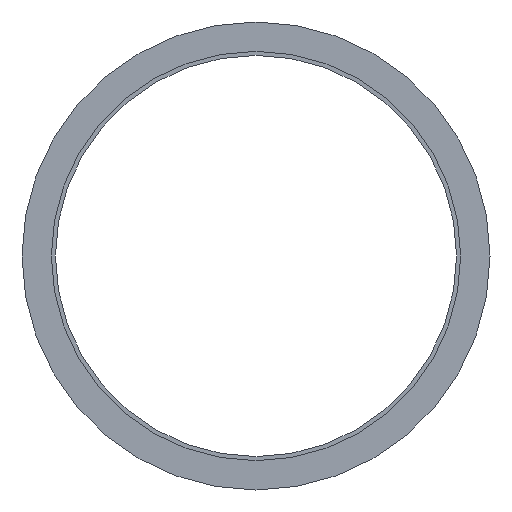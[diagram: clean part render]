
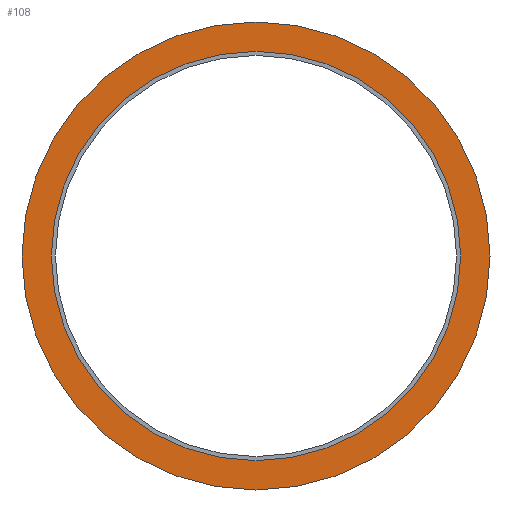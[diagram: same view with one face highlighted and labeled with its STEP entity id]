
A CAD part, left-side view. The second image highlights one B-rep face of the part: STEP entity #108.
In plain terms, the highlighted planar face has unit normal (-1, 0, 0).
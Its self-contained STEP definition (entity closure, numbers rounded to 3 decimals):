
#5 = EDGE_CURVE ( 'NONE', #173, #357, #10, .T. ) ;
#10 = CIRCLE ( 'NONE', #30, 15.305 ) ;
#24 = EDGE_CURVE ( 'NONE', #395, #235, #54, .T. ) ;
#30 = AXIS2_PLACEMENT_3D ( 'NONE', #349, #387, #263 ) ;
#53 = DIRECTION ( 'NONE',  ( -1., 0., 0. ) ) ;
#54 = CIRCLE ( 'NONE', #98, 17.5 ) ;
#60 = DIRECTION ( 'NONE',  ( -1., 0., 0. ) ) ;
#72 = CARTESIAN_POINT ( 'NONE',  ( -2.809, -0.153, 0. ) ) ;
#76 = AXIS2_PLACEMENT_3D ( 'NONE', #284, #53, #301 ) ;
#98 = AXIS2_PLACEMENT_3D ( 'NONE', #72, #60, #175 ) ;
#108 = ADVANCED_FACE ( 'NONE', ( #148, #315 ), #354, .F. ) ;
#113 = EDGE_CURVE ( 'NONE', #235, #395, #234, .T. ) ;
#148 = FACE_BOUND ( 'NONE', #297, .T. ) ;
#150 = CARTESIAN_POINT ( 'NONE',  ( -2.809, -0.153, -15.305 ) ) ;
#152 = ORIENTED_EDGE ( 'NONE', *, *, #5, .F. ) ;
#172 = CARTESIAN_POINT ( 'NONE',  ( -2.809, -0.153, -17.5 ) ) ;
#173 = VERTEX_POINT ( 'NONE', #150 ) ;
#175 = DIRECTION ( 'NONE',  ( 0., 0., 1. ) ) ;
#181 = CARTESIAN_POINT ( 'NONE',  ( -2.809, -0.153, 0. ) ) ;
#186 = ORIENTED_EDGE ( 'NONE', *, *, #201, .F. ) ;
#197 = AXIS2_PLACEMENT_3D ( 'NONE', #181, #405, #229 ) ;
#201 = EDGE_CURVE ( 'NONE', #357, #173, #222, .T. ) ;
#209 = CARTESIAN_POINT ( 'NONE',  ( -2.809, -0.153, 17.5 ) ) ;
#219 = CARTESIAN_POINT ( 'NONE',  ( -2.809, -0.153, 15.305 ) ) ;
#222 = CIRCLE ( 'NONE', #197, 15.305 ) ;
#229 = DIRECTION ( 'NONE',  ( 0., 0., 1. ) ) ;
#234 = CIRCLE ( 'NONE', #76, 17.5 ) ;
#235 = VERTEX_POINT ( 'NONE', #209 ) ;
#263 = DIRECTION ( 'NONE',  ( 0., 0., 1. ) ) ;
#284 = CARTESIAN_POINT ( 'NONE',  ( -2.809, -0.153, 0. ) ) ;
#287 = CARTESIAN_POINT ( 'NONE',  ( -2.809, -0.153, 0. ) ) ;
#296 = ORIENTED_EDGE ( 'NONE', *, *, #113, .T. ) ;
#297 = EDGE_LOOP ( 'NONE', ( #152, #186 ) ) ;
#301 = DIRECTION ( 'NONE',  ( 0., 0., 1. ) ) ;
#315 = FACE_OUTER_BOUND ( 'NONE', #403, .T. ) ;
#326 = DIRECTION ( 'NONE',  ( 1., 0., 0. ) ) ;
#349 = CARTESIAN_POINT ( 'NONE',  ( -2.809, -0.153, 0. ) ) ;
#352 = AXIS2_PLACEMENT_3D ( 'NONE', #287, #326, #408 ) ;
#354 = PLANE ( 'NONE',  #352 ) ;
#357 = VERTEX_POINT ( 'NONE', #219 ) ;
#387 = DIRECTION ( 'NONE',  ( -1., 0., 0. ) ) ;
#389 = ORIENTED_EDGE ( 'NONE', *, *, #24, .T. ) ;
#395 = VERTEX_POINT ( 'NONE', #172 ) ;
#403 = EDGE_LOOP ( 'NONE', ( #296, #389 ) ) ;
#405 = DIRECTION ( 'NONE',  ( -1., 0., 0. ) ) ;
#408 = DIRECTION ( 'NONE',  ( 0., 0., -1. ) ) ;
